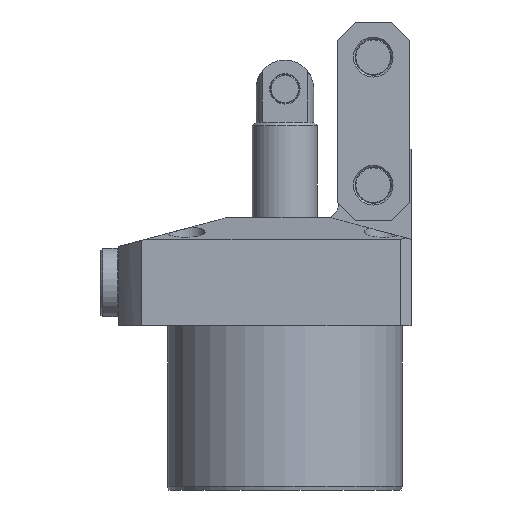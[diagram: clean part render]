
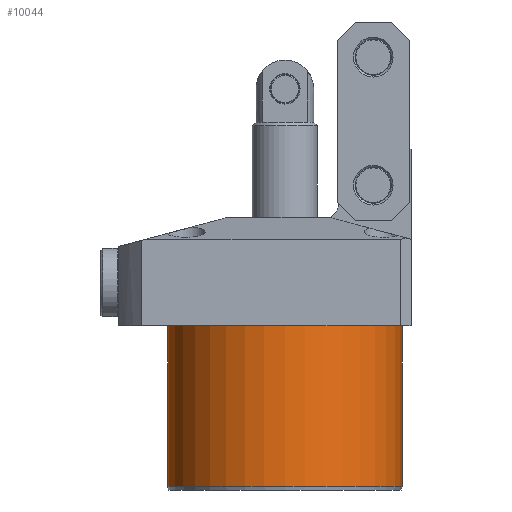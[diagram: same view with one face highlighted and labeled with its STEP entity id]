
A CAD part, front view. The second image highlights one B-rep face of the part: STEP entity #10044.
In plain terms, the highlighted cylindrical face has radius 32.5 mm (diameter 65 mm), a partial arc.
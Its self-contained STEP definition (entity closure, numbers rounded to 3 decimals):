
#521 = CARTESIAN_POINT ( 'NONE',  ( -32.5, 0., -45.5 ) ) ;
#570 = VERTEX_POINT ( 'NONE', #2898 ) ;
#1942 = DIRECTION ( 'NONE',  ( 0., 0., 1. ) ) ;
#2149 = LINE ( 'NONE', #521, #9280 ) ;
#2898 = CARTESIAN_POINT ( 'NONE',  ( -32.5, 0., 0. ) ) ;
#3381 = DIRECTION ( 'NONE',  ( 0., 0., 1. ) ) ;
#3479 = DIRECTION ( 'NONE',  ( 0., 0., 1. ) ) ;
#3678 = VERTEX_POINT ( 'NONE', #6184 ) ;
#3961 = CARTESIAN_POINT ( 'NONE',  ( 32.5, 0., 0. ) ) ;
#4747 = DIRECTION ( 'NONE',  ( 0., 0., -1. ) ) ;
#6184 = CARTESIAN_POINT ( 'NONE',  ( 32.5, 0., -44.5 ) ) ;
#6276 = FACE_OUTER_BOUND ( 'NONE', #17132, .T. ) ;
#6349 = DIRECTION ( 'NONE',  ( 1., 0., 0. ) ) ;
#6914 = ORIENTED_EDGE ( 'NONE', *, *, #16415, .T. ) ;
#8289 = AXIS2_PLACEMENT_3D ( 'NONE', #16366, #3479, #6349 ) ;
#8920 = EDGE_CURVE ( 'NONE', #3678, #9224, #13269, .T. ) ;
#9224 = VERTEX_POINT ( 'NONE', #3961 ) ;
#9280 = VECTOR ( 'NONE', #1942, 1000. ) ;
#9893 = CARTESIAN_POINT ( 'NONE',  ( 32.5, 0., -45.5 ) ) ;
#10044 = ADVANCED_FACE ( 'NONE', ( #6276 ), #11878, .T. ) ;
#10182 = CIRCLE ( 'NONE', #11148, 32.5 ) ;
#11148 = AXIS2_PLACEMENT_3D ( 'NONE', #13318, #4747, #14755 ) ;
#11358 = CARTESIAN_POINT ( 'NONE',  ( -32.5, 0., -44.5 ) ) ;
#11808 = ORIENTED_EDGE ( 'NONE', *, *, #16447, .F. ) ;
#11878 = CYLINDRICAL_SURFACE ( 'NONE', #8289, 32.5 ) ;
#11942 = CARTESIAN_POINT ( 'NONE',  ( 0., 0., -44.5 ) ) ;
#12595 = ORIENTED_EDGE ( 'NONE', *, *, #16443, .T. ) ;
#12712 = ORIENTED_EDGE ( 'NONE', *, *, #8920, .T. ) ;
#13269 = LINE ( 'NONE', #9893, #17084 ) ;
#13318 = CARTESIAN_POINT ( 'NONE',  ( 0., 0., 0. ) ) ;
#13380 = DIRECTION ( 'NONE',  ( -1., 0., 0. ) ) ;
#13754 = VERTEX_POINT ( 'NONE', #11358 ) ;
#14755 = DIRECTION ( 'NONE',  ( 1., 0., 0. ) ) ;
#15360 = DIRECTION ( 'NONE',  ( 0., 0., 1. ) ) ;
#15973 = AXIS2_PLACEMENT_3D ( 'NONE', #11942, #3381, #13380 ) ;
#16366 = CARTESIAN_POINT ( 'NONE',  ( 0., 0., -45.5 ) ) ;
#16415 = EDGE_CURVE ( 'NONE', #9224, #570, #10182, .T. ) ;
#16443 = EDGE_CURVE ( 'NONE', #13754, #3678, #16924, .T. ) ;
#16447 = EDGE_CURVE ( 'NONE', #13754, #570, #2149, .T. ) ;
#16924 = CIRCLE ( 'NONE', #15973, 32.5 ) ;
#17084 = VECTOR ( 'NONE', #15360, 1000. ) ;
#17132 = EDGE_LOOP ( 'NONE', ( #11808, #12595, #12712, #6914 ) ) ;
